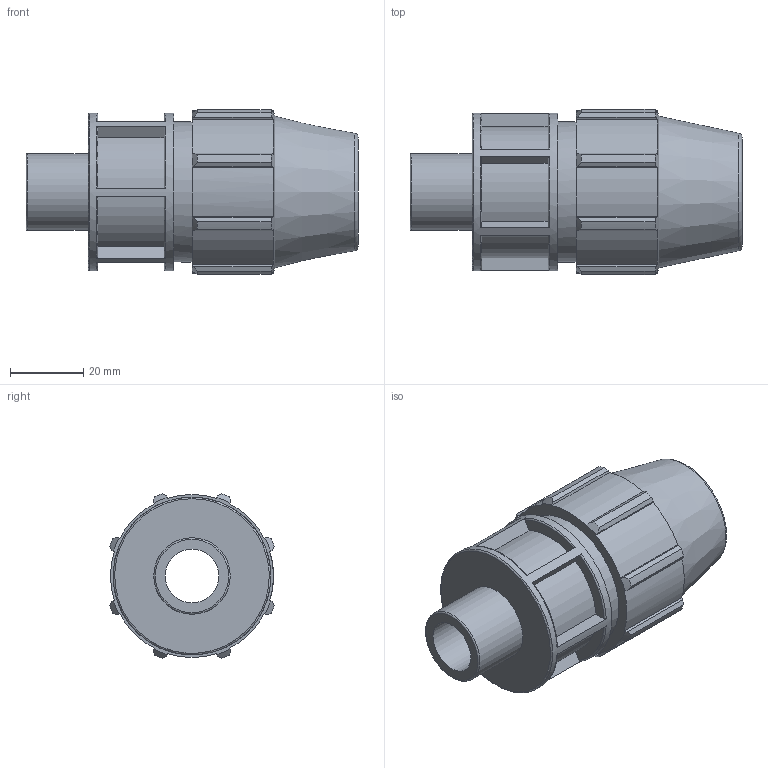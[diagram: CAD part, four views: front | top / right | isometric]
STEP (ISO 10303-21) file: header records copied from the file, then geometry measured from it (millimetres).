
FILE_DESCRIPTION(/* description */ ('PLASSON MALE ADAPTOR 1/2'''' - 1/2''''M'),/* implementation_level */ '2;1');
FILE_NAME(/* name */ 'C:\Dropbox\KIMPROJECTS-Inventor 2019\99-16-3568-Processing Inch\ASTM Compression 2021\0702M0\0702M0005005.ipt.stp',/* time_stamp */ '2021-08-26T12:29:59+03:00',/* author */ ('KIM'),/* organization */ (''),/* preprocessor_version */ 'ST-DEVELOPER v17.2',/* originating_system */ 'Autodesk Inventor 2019',/* authorisation */ '');
FILE_SCHEMA (('CONFIG_CONTROL_DESIGN','AUTOMOTIVE_DESIGN { 1 0 10303 214 3 1 1 }','TECHNICAL_DATA_PACKAGING'));
Length unit declared in the file: inch
Products named in the file (1): 0702M0005005
Bounding box: 90.93 x 45.17 x 45.17 mm (x, y, z)
Volume: 69840.2 mm3; surface area: 21055.1 mm2
Topology: 1 solids, 1 shells, 117 faces, 327 edges, 223 vertices
Faces by surface type: plane 63, cylinder 27, torus 15, cone 12
Full cylindrical faces by diameter (mm): 14.668 x1, 20.955 x1, 21.2 x1, 38.405 x1, 43.205 x1
Entity records: 4135 total; most frequent: CARTESIAN_POINT 948, ORIENTED_EDGE 654, DIRECTION 625, EDGE_CURVE 327, AXIS2_PLACEMENT_3D 236, VERTEX_POINT 223, LINE 153, VECTOR 153
